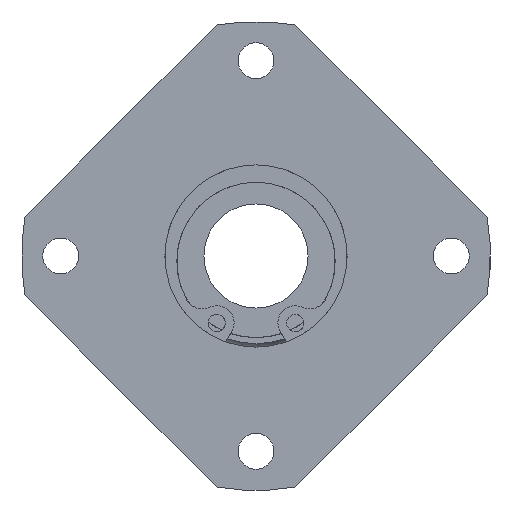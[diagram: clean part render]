
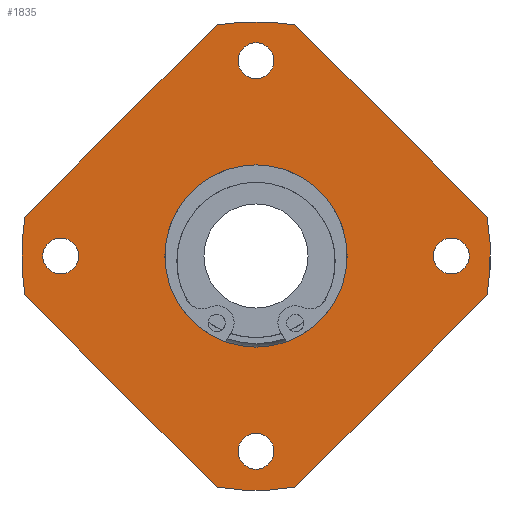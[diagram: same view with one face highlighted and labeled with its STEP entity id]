
A CAD part, left-side view. The second image highlights one B-rep face of the part: STEP entity #1835.
In plain terms, the highlighted planar face has unit normal (-1, 0, 0).
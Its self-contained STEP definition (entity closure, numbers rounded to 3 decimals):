
#60=CARTESIAN_POINT('',(0.0,22.5,-2.067));
#61=VERTEX_POINT('',#60);
#62=CARTESIAN_POINT('',(0.0,22.5,0.));
#63=DIRECTION('',(1.0,0.0,0.0));
#64=DIRECTION('',(0.0,0.0,-1.0));
#65=AXIS2_PLACEMENT_3D('',#62,#63,#64);
#66=CIRCLE('',#65,2.067);
#67=EDGE_CURVE('',#61,#61,#66,.T.);
#88=CARTESIAN_POINT('',(0.0,-2.067,-22.5));
#89=VERTEX_POINT('',#88);
#90=CARTESIAN_POINT('',(0.0,0.,-22.5));
#91=DIRECTION('',(1.0,0.0,0.0));
#92=DIRECTION('',(0.0,-1.0,0.0));
#93=AXIS2_PLACEMENT_3D('',#90,#91,#92);
#94=CIRCLE('',#93,2.067);
#95=EDGE_CURVE('',#89,#89,#94,.T.);
#116=CARTESIAN_POINT('',(0.0,-22.5,2.067));
#117=VERTEX_POINT('',#116);
#118=CARTESIAN_POINT('',(0.0,-22.5,0.));
#119=DIRECTION('',(1.0,0.0,0.0));
#120=DIRECTION('',(0.0,0.0,1.0));
#121=AXIS2_PLACEMENT_3D('',#118,#119,#120);
#122=CIRCLE('',#121,2.067);
#123=EDGE_CURVE('',#117,#117,#122,.T.);
#144=CARTESIAN_POINT('',(0.0,2.067,22.5));
#145=VERTEX_POINT('',#144);
#146=CARTESIAN_POINT('',(0.0,0.0,22.5));
#147=DIRECTION('',(1.0,0.0,0.0));
#148=DIRECTION('',(0.0,1.0,0.0));
#149=AXIS2_PLACEMENT_3D('',#146,#147,#148);
#150=CIRCLE('',#149,2.067);
#151=EDGE_CURVE('',#145,#145,#150,.T.);
#171=CARTESIAN_POINT('',(0.0,26.624,4.488));
#172=VERTEX_POINT('',#171);
#179=CARTESIAN_POINT('',(0.0,4.488,26.624));
#180=VERTEX_POINT('',#179);
#181=CARTESIAN_POINT('',(0.0,4.488,26.624));
#182=DIRECTION('',(0.0,0.707,-0.707));
#183=VECTOR('',#182,31.305);
#184=LINE('',#181,#183);
#185=EDGE_CURVE('',#180,#172,#184,.T.);
#211=CARTESIAN_POINT('',(0.0,4.488,-26.624));
#212=VERTEX_POINT('',#211);
#219=CARTESIAN_POINT('',(0.0,26.624,-4.488));
#220=VERTEX_POINT('',#219);
#221=CARTESIAN_POINT('',(0.0,26.624,-4.488));
#222=DIRECTION('',(0.0,-0.707,-0.707));
#223=VECTOR('',#222,31.305);
#224=LINE('',#221,#223);
#225=EDGE_CURVE('',#220,#212,#224,.T.);
#251=CARTESIAN_POINT('',(0.0,-26.624,-4.488));
#252=VERTEX_POINT('',#251);
#259=CARTESIAN_POINT('',(0.0,-4.488,-26.624));
#260=VERTEX_POINT('',#259);
#261=CARTESIAN_POINT('',(0.0,-4.488,-26.624));
#262=DIRECTION('',(0.0,-0.707,0.707));
#263=VECTOR('',#262,31.305);
#264=LINE('',#261,#263);
#265=EDGE_CURVE('',#260,#252,#264,.T.);
#291=CARTESIAN_POINT('',(0.0,-4.488,26.624));
#292=VERTEX_POINT('',#291);
#299=CARTESIAN_POINT('',(0.0,-26.624,4.488));
#300=VERTEX_POINT('',#299);
#301=CARTESIAN_POINT('',(0.0,-26.624,4.488));
#302=DIRECTION('',(0.0,0.707,0.707));
#303=VECTOR('',#302,31.305);
#304=LINE('',#301,#303);
#305=EDGE_CURVE('',#300,#292,#304,.T.);
#330=CARTESIAN_POINT('',(0.0,0.0,0.0));
#331=DIRECTION('',(-1.0,0.0,0.0));
#332=DIRECTION('',(0.0,0.0,1.0));
#333=AXIS2_PLACEMENT_3D('',#330,#331,#332);
#334=CIRCLE('',#333,27.0);
#335=EDGE_CURVE('',#252,#300,#334,.T.);
#354=CARTESIAN_POINT('',(0.0,0.0,0.0));
#355=DIRECTION('',(-1.0,0.0,0.0));
#356=DIRECTION('',(0.0,0.0,1.0));
#357=AXIS2_PLACEMENT_3D('',#354,#355,#356);
#358=CIRCLE('',#357,27.0);
#359=EDGE_CURVE('',#212,#260,#358,.T.);
#370=CARTESIAN_POINT('',(0.0,0.0,0.0));
#371=DIRECTION('',(-1.0,0.0,0.0));
#372=DIRECTION('',(0.0,0.0,1.0));
#373=AXIS2_PLACEMENT_3D('',#370,#371,#372);
#374=CIRCLE('',#373,27.0);
#375=EDGE_CURVE('',#292,#180,#374,.T.);
#402=CARTESIAN_POINT('',(0.0,0.0,0.0));
#403=DIRECTION('',(-1.0,0.0,0.0));
#404=DIRECTION('',(0.0,0.0,1.0));
#405=AXIS2_PLACEMENT_3D('',#402,#403,#404);
#406=CIRCLE('',#405,27.0);
#407=EDGE_CURVE('',#172,#220,#406,.T.);
#1797=CARTESIAN_POINT('',(0.0,0.0,18.75));
#1798=DIRECTION('',(-1.0,0.0,0.0));
#1799=DIRECTION('',(0.0,0.0,1.0));
#1800=AXIS2_PLACEMENT_3D('',#1797,#1798,#1799);
#1801=PLANE('',#1800);
#1802=ORIENTED_EDGE('',*,*,#185,.T.);
#1803=ORIENTED_EDGE('',*,*,#407,.T.);
#1804=ORIENTED_EDGE('',*,*,#225,.T.);
#1805=ORIENTED_EDGE('',*,*,#359,.T.);
#1806=ORIENTED_EDGE('',*,*,#265,.T.);
#1807=ORIENTED_EDGE('',*,*,#335,.T.);
#1808=ORIENTED_EDGE('',*,*,#305,.T.);
#1809=ORIENTED_EDGE('',*,*,#375,.T.);
#1810=EDGE_LOOP('',(#1802,#1803,#1804,#1805,#1806,#1807,#1808,#1809));
#1811=FACE_OUTER_BOUND('',#1810,.T.);
#1812=ORIENTED_EDGE('',*,*,#67,.T.);
#1813=EDGE_LOOP('',(#1812));
#1814=FACE_BOUND('',#1813,.T.);
#1815=ORIENTED_EDGE('',*,*,#95,.T.);
#1816=EDGE_LOOP('',(#1815));
#1817=FACE_BOUND('',#1816,.T.);
#1818=ORIENTED_EDGE('',*,*,#123,.T.);
#1819=EDGE_LOOP('',(#1818));
#1820=FACE_BOUND('',#1819,.T.);
#1821=ORIENTED_EDGE('',*,*,#151,.T.);
#1822=EDGE_LOOP('',(#1821));
#1823=FACE_BOUND('',#1822,.T.);
#1824=CARTESIAN_POINT('',(0.0,0.0,10.5));
#1825=VERTEX_POINT('',#1824);
#1826=CARTESIAN_POINT('',(0.0,0.0,0.0));
#1827=DIRECTION('',(-1.0,0.0,0.0));
#1828=DIRECTION('',(0.0,0.0,1.0));
#1829=AXIS2_PLACEMENT_3D('',#1826,#1827,#1828);
#1830=CIRCLE('',#1829,10.5);
#1831=EDGE_CURVE('',#1825,#1825,#1830,.T.);
#1832=ORIENTED_EDGE('',*,*,#1831,.F.);
#1833=EDGE_LOOP('',(#1832));
#1834=FACE_BOUND('',#1833,.T.);
#1835=ADVANCED_FACE('',(#1811,#1814,#1817,#1820,#1823,#1834),#1801,.T.);
